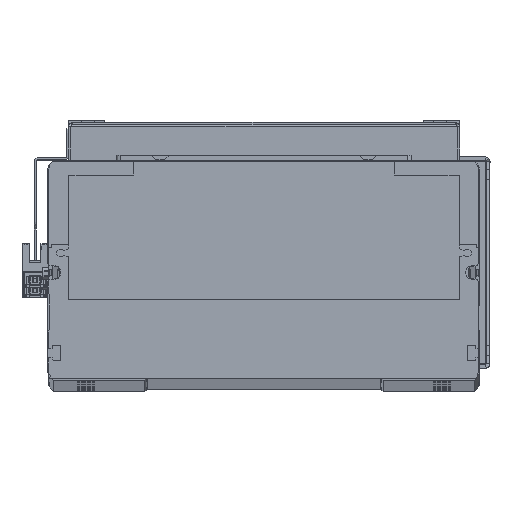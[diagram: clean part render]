
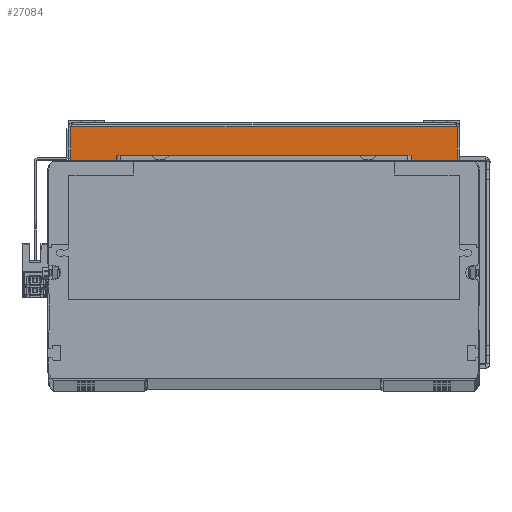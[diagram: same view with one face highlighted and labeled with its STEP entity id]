
A CAD part, top view. The second image highlights one B-rep face of the part: STEP entity #27084.
In plain terms, the highlighted planar face has unit normal (0, 0, 1) as drawn and (0, -1, 0) by its records, which use the part's own axes.
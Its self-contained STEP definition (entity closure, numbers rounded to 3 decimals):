
#3651 = VECTOR ( 'NONE', #18952, 1000. ) ;
#4128 = FACE_OUTER_BOUND ( 'NONE', #22876, .T. ) ;
#4532 = EDGE_CURVE ( 'NONE', #43876, #23332, #43539, .T. ) ;
#6228 = CARTESIAN_POINT ( 'NONE',  ( -98.7, -150., 20.3 ) ) ;
#7696 = CARTESIAN_POINT ( 'NONE',  ( 0., -150., 0. ) ) ;
#8127 = CARTESIAN_POINT ( 'NONE',  ( -98.7, -150., 0. ) ) ;
#8139 = CARTESIAN_POINT ( 'NONE',  ( 98.7, -150., 20.3 ) ) ;
#11471 = EDGE_CURVE ( 'NONE', #20853, #17982, #51617, .T. ) ;
#11564 = DIRECTION ( 'NONE',  ( 0., 0., -1. ) ) ;
#12196 = LINE ( 'NONE', #51521, #36787 ) ;
#13418 = ORIENTED_EDGE ( 'NONE', *, *, #20228, .T. ) ;
#17982 = VERTEX_POINT ( 'NONE', #37860 ) ;
#18952 = DIRECTION ( 'NONE',  ( 1., 0., 0. ) ) ;
#19266 = DIRECTION ( 'NONE',  ( 0., 1., 0. ) ) ;
#19375 = DIRECTION ( 'NONE',  ( 0., 0., -1. ) ) ;
#20228 = EDGE_CURVE ( 'NONE', #20853, #43876, #12196, .T. ) ;
#20853 = VERTEX_POINT ( 'NONE', #6228 ) ;
#22876 = EDGE_LOOP ( 'NONE', ( #30486, #13418, #33519, #48703 ) ) ;
#22935 = CARTESIAN_POINT ( 'NONE',  ( 100., -150., 20.3 ) ) ;
#23332 = VERTEX_POINT ( 'NONE', #27638 ) ;
#23864 = DIRECTION ( 'NONE',  ( 1., 0., 0. ) ) ;
#26296 = AXIS2_PLACEMENT_3D ( 'NONE', #39737, #19266, #11564 ) ;
#27084 = ADVANCED_FACE ( 'NONE', ( #4128 ), #47951, .F. ) ;
#27638 = CARTESIAN_POINT ( 'NONE',  ( 98.7, -150., 0. ) ) ;
#30486 = ORIENTED_EDGE ( 'NONE', *, *, #11471, .F. ) ;
#32974 = VECTOR ( 'NONE', #52192, 1000. ) ;
#33046 = EDGE_CURVE ( 'NONE', #17982, #23332, #44474, .T. ) ;
#33519 = ORIENTED_EDGE ( 'NONE', *, *, #4532, .T. ) ;
#36787 = VECTOR ( 'NONE', #19375, 1000. ) ;
#37860 = CARTESIAN_POINT ( 'NONE',  ( 98.7, -150., 20.3 ) ) ;
#39737 = CARTESIAN_POINT ( 'NONE',  ( 0., -150., 21.3 ) ) ;
#41029 = VECTOR ( 'NONE', #23864, 1000. ) ;
#43539 = LINE ( 'NONE', #7696, #41029 ) ;
#43876 = VERTEX_POINT ( 'NONE', #8127 ) ;
#44474 = LINE ( 'NONE', #8139, #32974 ) ;
#47951 = PLANE ( 'NONE',  #26296 ) ;
#48703 = ORIENTED_EDGE ( 'NONE', *, *, #33046, .F. ) ;
#51521 = CARTESIAN_POINT ( 'NONE',  ( -98.7, -150., 20.3 ) ) ;
#51617 = LINE ( 'NONE', #22935, #3651 ) ;
#52192 = DIRECTION ( 'NONE',  ( 0., 0., -1. ) ) ;
